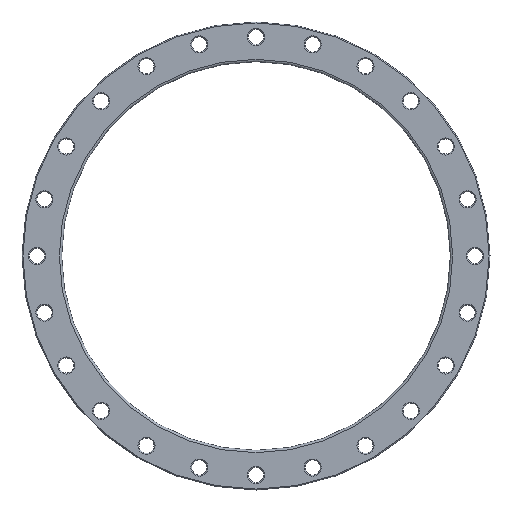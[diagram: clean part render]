
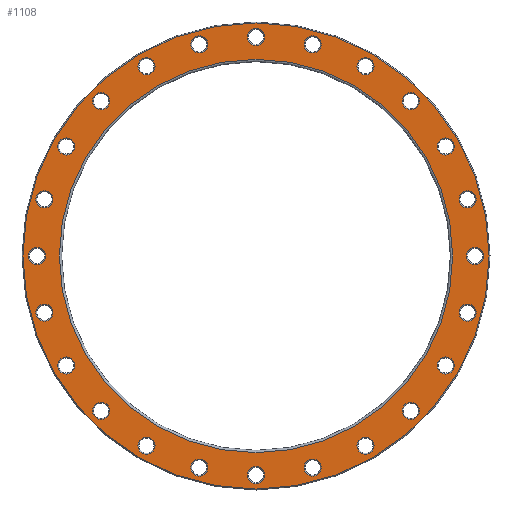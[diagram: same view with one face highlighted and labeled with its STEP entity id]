
A CAD part, front view. The second image highlights one B-rep face of the part: STEP entity #1108.
In plain terms, the highlighted planar face has unit normal (0, -1, 0).
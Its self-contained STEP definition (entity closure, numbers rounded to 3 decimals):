
#23=PLANE('',#1300);
#242=ORIENTED_EDGE('',*,*,#381,.T.);
#243=ORIENTED_EDGE('',*,*,#382,.T.);
#244=ORIENTED_EDGE('',*,*,#284,.T.);
#245=ORIENTED_EDGE('',*,*,#288,.T.);
#246=ORIENTED_EDGE('',*,*,#292,.T.);
#247=ORIENTED_EDGE('',*,*,#296,.T.);
#248=ORIENTED_EDGE('',*,*,#300,.T.);
#249=ORIENTED_EDGE('',*,*,#304,.T.);
#250=ORIENTED_EDGE('',*,*,#308,.T.);
#251=ORIENTED_EDGE('',*,*,#312,.T.);
#252=ORIENTED_EDGE('',*,*,#316,.T.);
#253=ORIENTED_EDGE('',*,*,#320,.T.);
#254=ORIENTED_EDGE('',*,*,#324,.T.);
#255=ORIENTED_EDGE('',*,*,#328,.T.);
#256=ORIENTED_EDGE('',*,*,#332,.T.);
#257=ORIENTED_EDGE('',*,*,#336,.T.);
#258=ORIENTED_EDGE('',*,*,#340,.T.);
#259=ORIENTED_EDGE('',*,*,#344,.T.);
#260=ORIENTED_EDGE('',*,*,#348,.T.);
#261=ORIENTED_EDGE('',*,*,#352,.T.);
#262=ORIENTED_EDGE('',*,*,#356,.T.);
#263=ORIENTED_EDGE('',*,*,#360,.T.);
#264=ORIENTED_EDGE('',*,*,#364,.T.);
#265=ORIENTED_EDGE('',*,*,#368,.T.);
#266=ORIENTED_EDGE('',*,*,#372,.T.);
#267=ORIENTED_EDGE('',*,*,#383,.T.);
#284=EDGE_CURVE('',#388,#388,#492,.T.);
#288=EDGE_CURVE('',#392,#392,#496,.T.);
#292=EDGE_CURVE('',#396,#396,#500,.T.);
#296=EDGE_CURVE('',#400,#400,#504,.T.);
#300=EDGE_CURVE('',#404,#404,#508,.T.);
#304=EDGE_CURVE('',#408,#408,#512,.T.);
#308=EDGE_CURVE('',#412,#412,#516,.T.);
#312=EDGE_CURVE('',#416,#416,#520,.T.);
#316=EDGE_CURVE('',#420,#420,#524,.T.);
#320=EDGE_CURVE('',#424,#424,#528,.T.);
#324=EDGE_CURVE('',#428,#428,#532,.T.);
#328=EDGE_CURVE('',#432,#432,#536,.T.);
#332=EDGE_CURVE('',#436,#436,#540,.T.);
#336=EDGE_CURVE('',#440,#440,#544,.T.);
#340=EDGE_CURVE('',#444,#444,#548,.T.);
#344=EDGE_CURVE('',#448,#448,#552,.T.);
#348=EDGE_CURVE('',#452,#452,#556,.T.);
#352=EDGE_CURVE('',#456,#456,#560,.T.);
#356=EDGE_CURVE('',#460,#460,#564,.T.);
#360=EDGE_CURVE('',#464,#464,#568,.T.);
#364=EDGE_CURVE('',#468,#468,#572,.T.);
#368=EDGE_CURVE('',#472,#472,#576,.T.);
#372=EDGE_CURVE('',#476,#476,#580,.T.);
#381=EDGE_CURVE('',#485,#485,#589,.F.);
#382=EDGE_CURVE('',#486,#486,#590,.T.);
#383=EDGE_CURVE('',#487,#487,#591,.T.);
#388=VERTEX_POINT('',#1691);
#392=VERTEX_POINT('',#1702);
#396=VERTEX_POINT('',#1713);
#400=VERTEX_POINT('',#1724);
#404=VERTEX_POINT('',#1735);
#408=VERTEX_POINT('',#1746);
#412=VERTEX_POINT('',#1757);
#416=VERTEX_POINT('',#1768);
#420=VERTEX_POINT('',#1779);
#424=VERTEX_POINT('',#1790);
#428=VERTEX_POINT('',#1801);
#432=VERTEX_POINT('',#1812);
#436=VERTEX_POINT('',#1823);
#440=VERTEX_POINT('',#1834);
#444=VERTEX_POINT('',#1845);
#448=VERTEX_POINT('',#1856);
#452=VERTEX_POINT('',#1867);
#456=VERTEX_POINT('',#1878);
#460=VERTEX_POINT('',#1889);
#464=VERTEX_POINT('',#1900);
#468=VERTEX_POINT('',#1911);
#472=VERTEX_POINT('',#1922);
#476=VERTEX_POINT('',#1933);
#485=VERTEX_POINT('',#1956);
#486=VERTEX_POINT('',#1958);
#487=VERTEX_POINT('',#1960);
#492=CIRCLE('',#1133,18.5);
#496=CIRCLE('',#1140,18.5);
#500=CIRCLE('',#1147,18.5);
#504=CIRCLE('',#1154,18.5);
#508=CIRCLE('',#1161,18.5);
#512=CIRCLE('',#1168,18.5);
#516=CIRCLE('',#1175,18.5);
#520=CIRCLE('',#1182,18.5);
#524=CIRCLE('',#1189,18.5);
#528=CIRCLE('',#1196,18.5);
#532=CIRCLE('',#1203,18.5);
#536=CIRCLE('',#1210,18.5);
#540=CIRCLE('',#1217,18.5);
#544=CIRCLE('',#1224,18.5);
#548=CIRCLE('',#1231,18.5);
#552=CIRCLE('',#1238,18.5);
#556=CIRCLE('',#1245,18.5);
#560=CIRCLE('',#1252,18.5);
#564=CIRCLE('',#1259,18.5);
#568=CIRCLE('',#1266,18.5);
#572=CIRCLE('',#1273,18.5);
#576=CIRCLE('',#1280,18.5);
#580=CIRCLE('',#1287,18.5);
#589=CIRCLE('',#1301,505.5);
#590=CIRCLE('',#1302,426.5);
#591=CIRCLE('',#1303,18.5);
#762=EDGE_LOOP('',(#242));
#763=EDGE_LOOP('',(#243));
#764=EDGE_LOOP('',(#244));
#765=EDGE_LOOP('',(#245));
#766=EDGE_LOOP('',(#246));
#767=EDGE_LOOP('',(#247));
#768=EDGE_LOOP('',(#248));
#769=EDGE_LOOP('',(#249));
#770=EDGE_LOOP('',(#250));
#771=EDGE_LOOP('',(#251));
#772=EDGE_LOOP('',(#252));
#773=EDGE_LOOP('',(#253));
#774=EDGE_LOOP('',(#254));
#775=EDGE_LOOP('',(#255));
#776=EDGE_LOOP('',(#256));
#777=EDGE_LOOP('',(#257));
#778=EDGE_LOOP('',(#258));
#779=EDGE_LOOP('',(#259));
#780=EDGE_LOOP('',(#260));
#781=EDGE_LOOP('',(#261));
#782=EDGE_LOOP('',(#262));
#783=EDGE_LOOP('',(#263));
#784=EDGE_LOOP('',(#264));
#785=EDGE_LOOP('',(#265));
#786=EDGE_LOOP('',(#266));
#787=EDGE_LOOP('',(#267));
#970=FACE_BOUND('',#762,.T.);
#971=FACE_BOUND('',#763,.T.);
#972=FACE_BOUND('',#764,.T.);
#973=FACE_BOUND('',#765,.T.);
#974=FACE_BOUND('',#766,.T.);
#975=FACE_BOUND('',#767,.T.);
#976=FACE_BOUND('',#768,.T.);
#977=FACE_BOUND('',#769,.T.);
#978=FACE_BOUND('',#770,.T.);
#979=FACE_BOUND('',#771,.T.);
#980=FACE_BOUND('',#772,.T.);
#981=FACE_BOUND('',#773,.T.);
#982=FACE_BOUND('',#774,.T.);
#983=FACE_BOUND('',#775,.T.);
#984=FACE_BOUND('',#776,.T.);
#985=FACE_BOUND('',#777,.T.);
#986=FACE_BOUND('',#778,.T.);
#987=FACE_BOUND('',#779,.T.);
#988=FACE_BOUND('',#780,.T.);
#989=FACE_BOUND('',#781,.T.);
#990=FACE_BOUND('',#782,.T.);
#991=FACE_BOUND('',#783,.T.);
#992=FACE_BOUND('',#784,.T.);
#993=FACE_BOUND('',#785,.T.);
#994=FACE_BOUND('',#786,.T.);
#995=FACE_BOUND('',#787,.T.);
#1108=ADVANCED_FACE('',(#970,#971,#972,#973,#974,#975,#976,#977,#978,#979,
#980,#981,#982,#983,#984,#985,#986,#987,#988,#989,#990,#991,#992,#993,#994,
#995),#23,.F.);
#1133=AXIS2_PLACEMENT_3D('',#1690,#1323,#1324);
#1140=AXIS2_PLACEMENT_3D('',#1701,#1337,#1338);
#1147=AXIS2_PLACEMENT_3D('',#1712,#1351,#1352);
#1154=AXIS2_PLACEMENT_3D('',#1723,#1365,#1366);
#1161=AXIS2_PLACEMENT_3D('',#1734,#1379,#1380);
#1168=AXIS2_PLACEMENT_3D('',#1745,#1393,#1394);
#1175=AXIS2_PLACEMENT_3D('',#1756,#1407,#1408);
#1182=AXIS2_PLACEMENT_3D('',#1767,#1421,#1422);
#1189=AXIS2_PLACEMENT_3D('',#1778,#1435,#1436);
#1196=AXIS2_PLACEMENT_3D('',#1789,#1449,#1450);
#1203=AXIS2_PLACEMENT_3D('',#1800,#1463,#1464);
#1210=AXIS2_PLACEMENT_3D('',#1811,#1477,#1478);
#1217=AXIS2_PLACEMENT_3D('',#1822,#1491,#1492);
#1224=AXIS2_PLACEMENT_3D('',#1833,#1505,#1506);
#1231=AXIS2_PLACEMENT_3D('',#1844,#1519,#1520);
#1238=AXIS2_PLACEMENT_3D('',#1855,#1533,#1534);
#1245=AXIS2_PLACEMENT_3D('',#1866,#1547,#1548);
#1252=AXIS2_PLACEMENT_3D('',#1877,#1561,#1562);
#1259=AXIS2_PLACEMENT_3D('',#1888,#1575,#1576);
#1266=AXIS2_PLACEMENT_3D('',#1899,#1589,#1590);
#1273=AXIS2_PLACEMENT_3D('',#1910,#1603,#1604);
#1280=AXIS2_PLACEMENT_3D('',#1921,#1617,#1618);
#1287=AXIS2_PLACEMENT_3D('',#1932,#1631,#1632);
#1300=AXIS2_PLACEMENT_3D('',#1954,#1657,#1658);
#1301=AXIS2_PLACEMENT_3D('',#1955,#1659,#1660);
#1302=AXIS2_PLACEMENT_3D('',#1957,#1661,#1662);
#1303=AXIS2_PLACEMENT_3D('',#1959,#1663,#1664);
#1323=DIRECTION('',(0.,1.,0.));
#1324=DIRECTION('',(0.966,0.,0.259));
#1337=DIRECTION('',(0.,1.,0.));
#1338=DIRECTION('',(0.866,0.,0.5));
#1351=DIRECTION('',(0.,1.,0.));
#1352=DIRECTION('',(0.707,0.,0.707));
#1365=DIRECTION('',(0.,1.,0.));
#1366=DIRECTION('',(0.5,0.,0.866));
#1379=DIRECTION('',(0.,1.,0.));
#1380=DIRECTION('',(0.259,0.,0.966));
#1393=DIRECTION('',(0.,1.,0.));
#1394=DIRECTION('',(0.,0.,1.));
#1407=DIRECTION('',(0.,1.,0.));
#1408=DIRECTION('',(-0.259,0.,0.966));
#1421=DIRECTION('',(0.,1.,0.));
#1422=DIRECTION('',(-0.5,0.,0.866));
#1435=DIRECTION('',(0.,1.,0.));
#1436=DIRECTION('',(-0.707,0.,0.707));
#1449=DIRECTION('',(0.,1.,0.));
#1450=DIRECTION('',(-0.866,0.,0.5));
#1463=DIRECTION('',(0.,1.,0.));
#1464=DIRECTION('',(-0.966,0.,0.259));
#1477=DIRECTION('',(0.,1.,0.));
#1478=DIRECTION('',(-1.,0.,0.));
#1491=DIRECTION('',(0.,1.,0.));
#1492=DIRECTION('',(-0.966,0.,-0.259));
#1505=DIRECTION('',(0.,1.,0.));
#1506=DIRECTION('',(-0.866,0.,-0.5));
#1519=DIRECTION('',(0.,1.,0.));
#1520=DIRECTION('',(-0.707,0.,-0.707));
#1533=DIRECTION('',(0.,1.,0.));
#1534=DIRECTION('',(-0.5,0.,-0.866));
#1547=DIRECTION('',(0.,1.,0.));
#1548=DIRECTION('',(-0.259,0.,-0.966));
#1561=DIRECTION('',(0.,1.,0.));
#1562=DIRECTION('',(0.,0.,-1.));
#1575=DIRECTION('',(0.,1.,0.));
#1576=DIRECTION('',(0.259,0.,-0.966));
#1589=DIRECTION('',(0.,1.,0.));
#1590=DIRECTION('',(0.5,0.,-0.866));
#1603=DIRECTION('',(0.,1.,0.));
#1604=DIRECTION('',(0.707,0.,-0.707));
#1617=DIRECTION('',(0.,1.,0.));
#1618=DIRECTION('',(0.866,0.,-0.5));
#1631=DIRECTION('',(0.,1.,0.));
#1632=DIRECTION('',(0.966,0.,-0.259));
#1657=DIRECTION('',(0.,1.,0.));
#1658=DIRECTION('',(0.,0.,1.));
#1659=DIRECTION('',(0.,1.,0.));
#1660=DIRECTION('',(0.,0.,1.));
#1661=DIRECTION('',(0.,1.,0.));
#1662=DIRECTION('',(0.,0.,1.));
#1663=DIRECTION('',(0.,1.,0.));
#1664=DIRECTION('',(1.,0.,0.));
#1690=CARTESIAN_POINT('',(-122.939,0.,458.815));
#1691=CARTESIAN_POINT('',(-105.069,0.,463.603));
#1701=CARTESIAN_POINT('',(-237.5,0.,411.362));
#1702=CARTESIAN_POINT('',(-221.479,0.,420.612));
#1712=CARTESIAN_POINT('',(-335.876,0.,335.876));
#1713=CARTESIAN_POINT('',(-322.794,0.,348.957));
#1723=CARTESIAN_POINT('',(-411.362,0.,237.5));
#1724=CARTESIAN_POINT('',(-402.112,0.,253.521));
#1734=CARTESIAN_POINT('',(-458.815,0.,122.939));
#1735=CARTESIAN_POINT('',(-454.027,0.,140.809));
#1745=CARTESIAN_POINT('',(-475.,0.,0.));
#1746=CARTESIAN_POINT('',(-475.,0.,18.5));
#1756=CARTESIAN_POINT('',(-458.815,0.,-122.939));
#1757=CARTESIAN_POINT('',(-463.603,0.,-105.069));
#1767=CARTESIAN_POINT('',(-411.362,0.,-237.5));
#1768=CARTESIAN_POINT('',(-420.612,0.,-221.479));
#1778=CARTESIAN_POINT('',(-335.876,0.,-335.876));
#1779=CARTESIAN_POINT('',(-348.957,0.,-322.794));
#1789=CARTESIAN_POINT('',(-237.5,0.,-411.362));
#1790=CARTESIAN_POINT('',(-253.521,0.,-402.112));
#1800=CARTESIAN_POINT('',(-122.939,0.,-458.815));
#1801=CARTESIAN_POINT('',(-140.809,0.,-454.027));
#1811=CARTESIAN_POINT('',(0.,0.,-475.));
#1812=CARTESIAN_POINT('',(-18.5,0.,-475.));
#1822=CARTESIAN_POINT('',(122.939,0.,-458.815));
#1823=CARTESIAN_POINT('',(105.069,0.,-463.603));
#1833=CARTESIAN_POINT('',(237.5,0.,-411.362));
#1834=CARTESIAN_POINT('',(221.479,0.,-420.612));
#1844=CARTESIAN_POINT('',(335.876,0.,-335.876));
#1845=CARTESIAN_POINT('',(322.794,0.,-348.957));
#1855=CARTESIAN_POINT('',(411.362,0.,-237.5));
#1856=CARTESIAN_POINT('',(402.112,0.,-253.521));
#1866=CARTESIAN_POINT('',(458.815,0.,-122.939));
#1867=CARTESIAN_POINT('',(454.027,0.,-140.809));
#1877=CARTESIAN_POINT('',(475.,0.,0.));
#1878=CARTESIAN_POINT('',(475.,0.,-18.5));
#1888=CARTESIAN_POINT('',(458.815,0.,122.939));
#1889=CARTESIAN_POINT('',(463.603,0.,105.069));
#1899=CARTESIAN_POINT('',(411.362,0.,237.5));
#1900=CARTESIAN_POINT('',(420.612,0.,221.479));
#1910=CARTESIAN_POINT('',(335.876,0.,335.876));
#1911=CARTESIAN_POINT('',(348.957,0.,322.794));
#1921=CARTESIAN_POINT('',(237.5,0.,411.362));
#1922=CARTESIAN_POINT('',(253.521,0.,402.112));
#1932=CARTESIAN_POINT('',(122.939,0.,458.815));
#1933=CARTESIAN_POINT('',(140.809,0.,454.027));
#1954=CARTESIAN_POINT('',(0.,0.,0.));
#1955=CARTESIAN_POINT('',(0.,0.,0.));
#1956=CARTESIAN_POINT('',(0.,0.,505.5));
#1957=CARTESIAN_POINT('',(0.,0.,0.));
#1958=CARTESIAN_POINT('',(0.,0.,426.5));
#1959=CARTESIAN_POINT('',(0.,0.,475.));
#1960=CARTESIAN_POINT('',(18.5,0.,475.));
